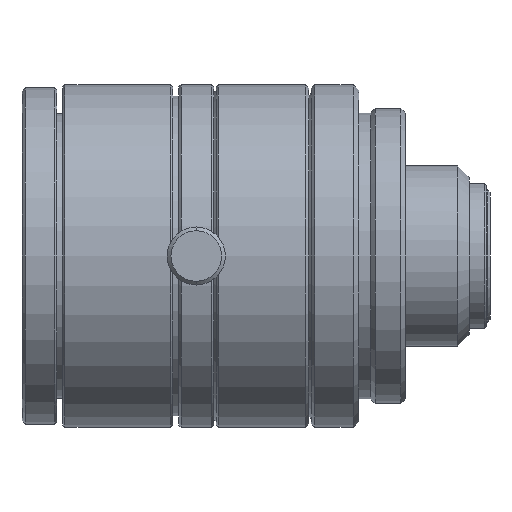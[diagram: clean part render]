
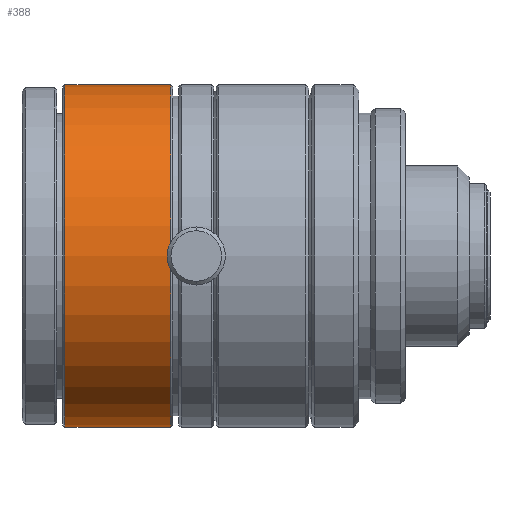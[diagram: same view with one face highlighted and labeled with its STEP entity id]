
A CAD part, front view. The second image highlights one B-rep face of the part: STEP entity #388.
In plain terms, the highlighted cylindrical face has radius 14.75 mm (diameter 29.5 mm), a partial arc.
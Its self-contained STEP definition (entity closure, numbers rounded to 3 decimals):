
#111 = ORIENTED_EDGE ( 'NONE', *, *, #2700, .F. ) ;
#166 = CARTESIAN_POINT ( 'NONE',  ( -33.704, 0., 14.75 ) ) ;
#167 = VERTEX_POINT ( 'NONE', #3910 ) ;
#288 = EDGE_CURVE ( 'NONE', #167, #2381, #1023, .T. ) ;
#321 = DIRECTION ( 'NONE',  ( 0., 0., 1. ) ) ;
#388 = ADVANCED_FACE ( 'NONE', ( #2763 ), #3524, .T. ) ;
#399 = CIRCLE ( 'NONE', #2129, 14.75 ) ;
#434 = DIRECTION ( 'NONE',  ( -1., 0., 0. ) ) ;
#922 = VECTOR ( 'NONE', #434, 1000. ) ;
#930 = CARTESIAN_POINT ( 'NONE',  ( -42.804, 0., 14.75 ) ) ;
#1023 = LINE ( 'NONE', #3838, #922 ) ;
#1094 = VERTEX_POINT ( 'NONE', #166 ) ;
#1249 = AXIS2_PLACEMENT_3D ( 'NONE', #3607, #3029, #3794 ) ;
#1327 = CARTESIAN_POINT ( 'NONE',  ( -42.804, 0., 0. ) ) ;
#1392 = LINE ( 'NONE', #4447, #4232 ) ;
#1704 = DIRECTION ( 'NONE',  ( 0., 0., 1. ) ) ;
#2129 = AXIS2_PLACEMENT_3D ( 'NONE', #4707, #2505, #321 ) ;
#2245 = DIRECTION ( 'NONE',  ( -1., 0., 0. ) ) ;
#2347 = ORIENTED_EDGE ( 'NONE', *, *, #2781, .T. ) ;
#2381 = VERTEX_POINT ( 'NONE', #3621 ) ;
#2447 = CIRCLE ( 'NONE', #4452, 14.75 ) ;
#2505 = DIRECTION ( 'NONE',  ( -1., 0., 0. ) ) ;
#2700 = EDGE_CURVE ( 'NONE', #2381, #3392, #2447, .T. ) ;
#2763 = FACE_OUTER_BOUND ( 'NONE', #3550, .T. ) ;
#2781 = EDGE_CURVE ( 'NONE', #167, #1094, #399, .T. ) ;
#3029 = DIRECTION ( 'NONE',  ( -1., 0., 0. ) ) ;
#3392 = VERTEX_POINT ( 'NONE', #930 ) ;
#3524 = CYLINDRICAL_SURFACE ( 'NONE', #1249, 14.75 ) ;
#3550 = EDGE_LOOP ( 'NONE', ( #4453, #2347, #4751, #111 ) ) ;
#3607 = CARTESIAN_POINT ( 'NONE',  ( -48.622, 0., 0. ) ) ;
#3621 = CARTESIAN_POINT ( 'NONE',  ( -42.804, 0., -14.75 ) ) ;
#3794 = DIRECTION ( 'NONE',  ( 0., 0., 1. ) ) ;
#3838 = CARTESIAN_POINT ( 'NONE',  ( -48.622, 0., -14.75 ) ) ;
#3910 = CARTESIAN_POINT ( 'NONE',  ( -33.704, 0., -14.75 ) ) ;
#3920 = DIRECTION ( 'NONE',  ( -1., 0., 0. ) ) ;
#4232 = VECTOR ( 'NONE', #2245, 1000. ) ;
#4447 = CARTESIAN_POINT ( 'NONE',  ( -48.622, 0., 14.75 ) ) ;
#4452 = AXIS2_PLACEMENT_3D ( 'NONE', #1327, #3920, #1704 ) ;
#4453 = ORIENTED_EDGE ( 'NONE', *, *, #288, .F. ) ;
#4486 = EDGE_CURVE ( 'NONE', #1094, #3392, #1392, .T. ) ;
#4707 = CARTESIAN_POINT ( 'NONE',  ( -33.704, 0., 0. ) ) ;
#4751 = ORIENTED_EDGE ( 'NONE', *, *, #4486, .T. ) ;
